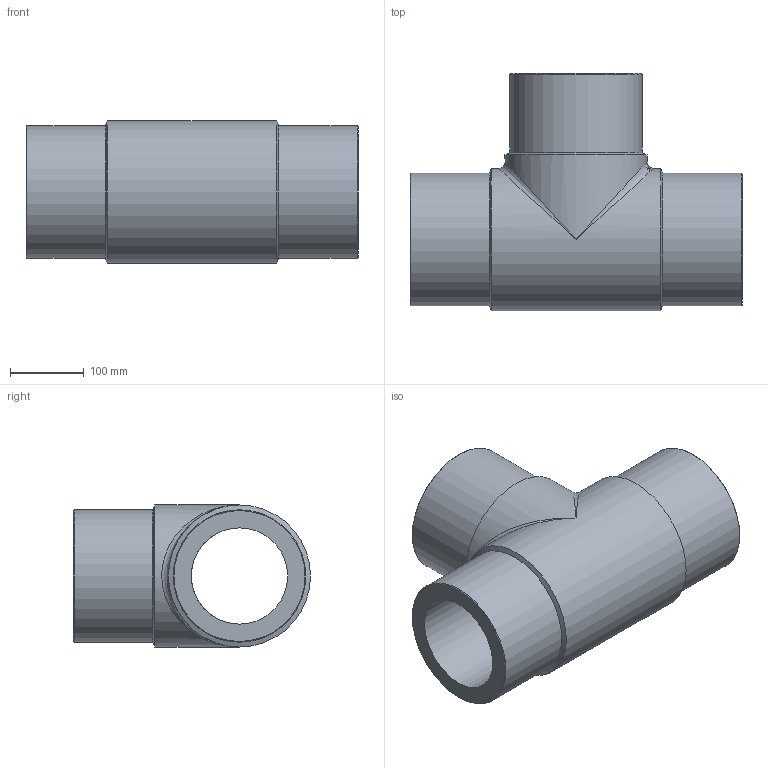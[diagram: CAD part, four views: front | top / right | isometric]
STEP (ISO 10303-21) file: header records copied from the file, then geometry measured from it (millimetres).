
FILE_DESCRIPTION(/* description */ ('Unknown'),/* implementation_level */ '2;1');
FILE_NAME(/* name */ 'TP180H',/* time_stamp */ '2021-08-04T15:48:35+02:00',/* author */ ('Unknown'),/* organization */ ('Unknown'),/* preprocessor_version */ 'ST-DEVELOPER v16.7',/* originating_system */ 'Solid Edge',/* authorisation */ 'Unknown');
FILE_SCHEMA (('AUTOMOTIVE_DESIGN {1 0 10303 214 3 1 1}'));
Length unit declared in the file: millimetre
Products named in the file (1): TP180H
Bounding box: 451 x 322 x 193 mm (x, y, z)
Volume: 7805610.1 mm3; surface area: 608057.8 mm2
Topology: 1 solids, 1 shells, 18 faces, 44 edges, 23 vertices
Faces by surface type: cylinder 7, cone 6, plane 3, bspline 2
Full cylindrical faces by diameter (mm): 130.8 x2, 180 x3, 193 x2
Entity records: 528 total; most frequent: CARTESIAN_POINT 171, DIRECTION 76, ORIENTED_EDGE 42, AXIS2_PLACEMENT_3D 38, EDGE_LOOP 36, FACE_BOUND 36, EDGE_CURVE 21, VERTEX_POINT 19
